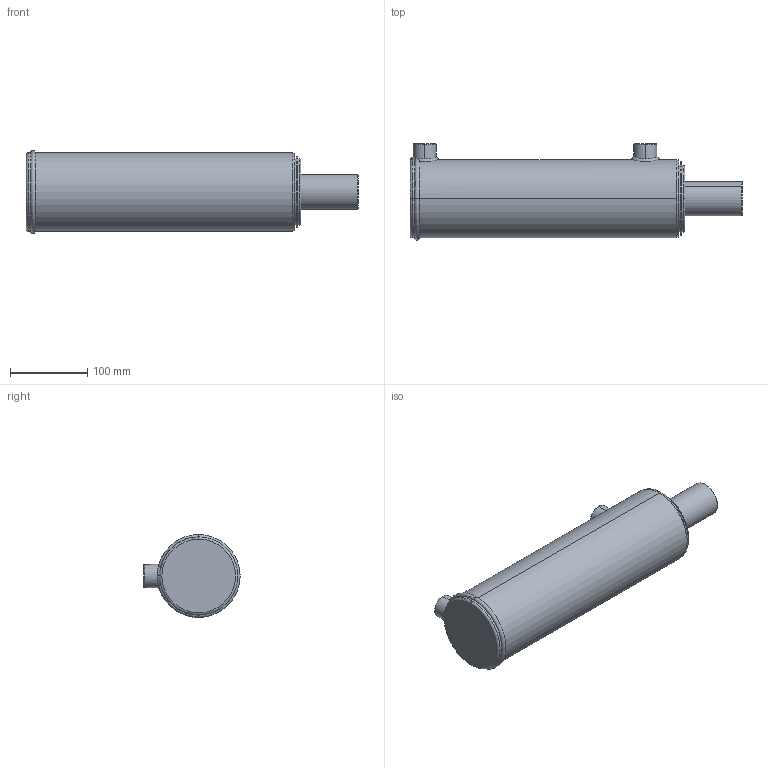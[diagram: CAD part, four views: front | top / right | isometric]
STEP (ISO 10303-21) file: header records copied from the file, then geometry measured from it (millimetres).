
FILE_DESCRIPTION (( 'STEP AP203' ), '1' );
FILE_NAME ('BL350175x245 (10).STEP', '2014-11-24T02:22:50', ( '' ), ( '' ), 'SwSTEP 2.0', 'SolidWorks 2014', '' );
FILE_SCHEMA (( 'CONFIG_CONTROL_DESIGN' ));
Length unit declared in the file: millimetre
Products named in the file (3): BL body 3.5_3.5x10; BL350175x245 (10); Spare_3.5x10
Assembly tree (2 placements, depth 2):
  BL350175x245 (10)
    BL body 3.5_3.5x10
    Spare_3.5x10
Bounding box: 429 x 124.4 x 107.2 mm (x, y, z)
Volume: 3016997.9 mm3; surface area: 224421.4 mm2
Topology: 2 solids, 2 shells, 88 faces, 205 edges, 126 vertices
Faces by surface type: cylinder 32, plane 20, torus 17, bspline 11, cone 8
Entity records: 6022 total; most frequent: CARTESIAN_POINT 3775, DIRECTION 420, ORIENTED_EDGE 402, EDGE_CURVE 201, AXIS2_PLACEMENT_3D 181, VERTEX_POINT 126, EDGE_LOOP 101, CIRCLE 99
